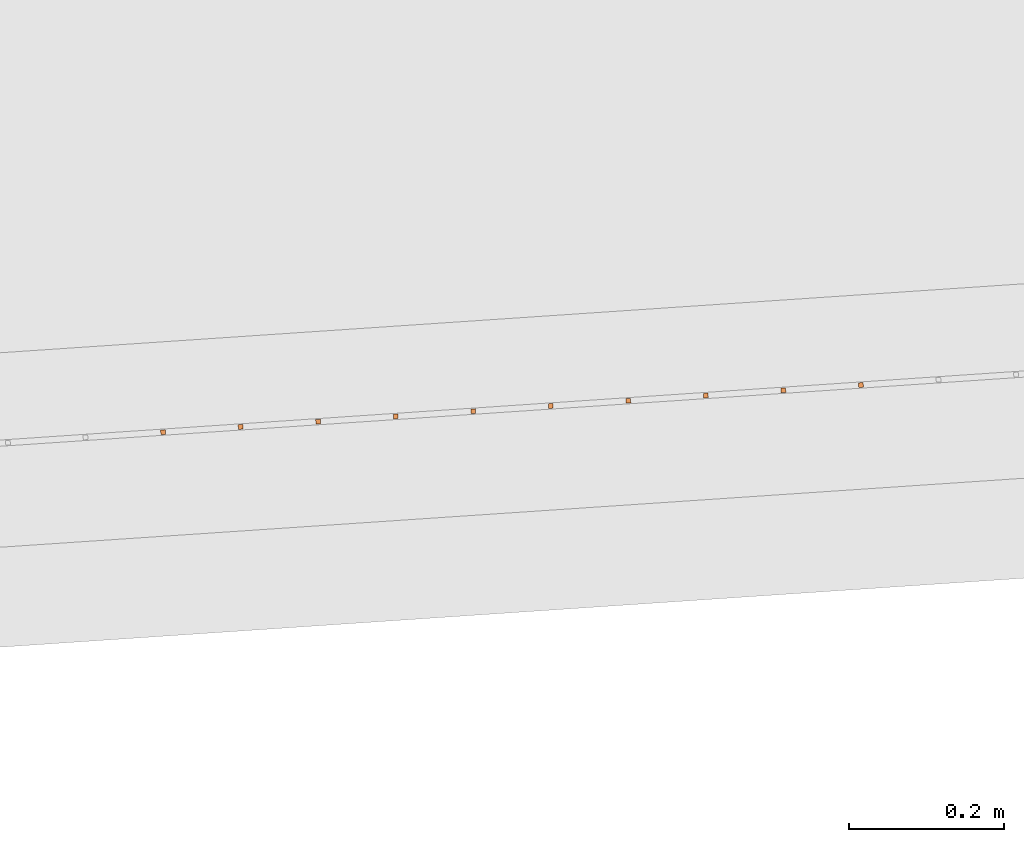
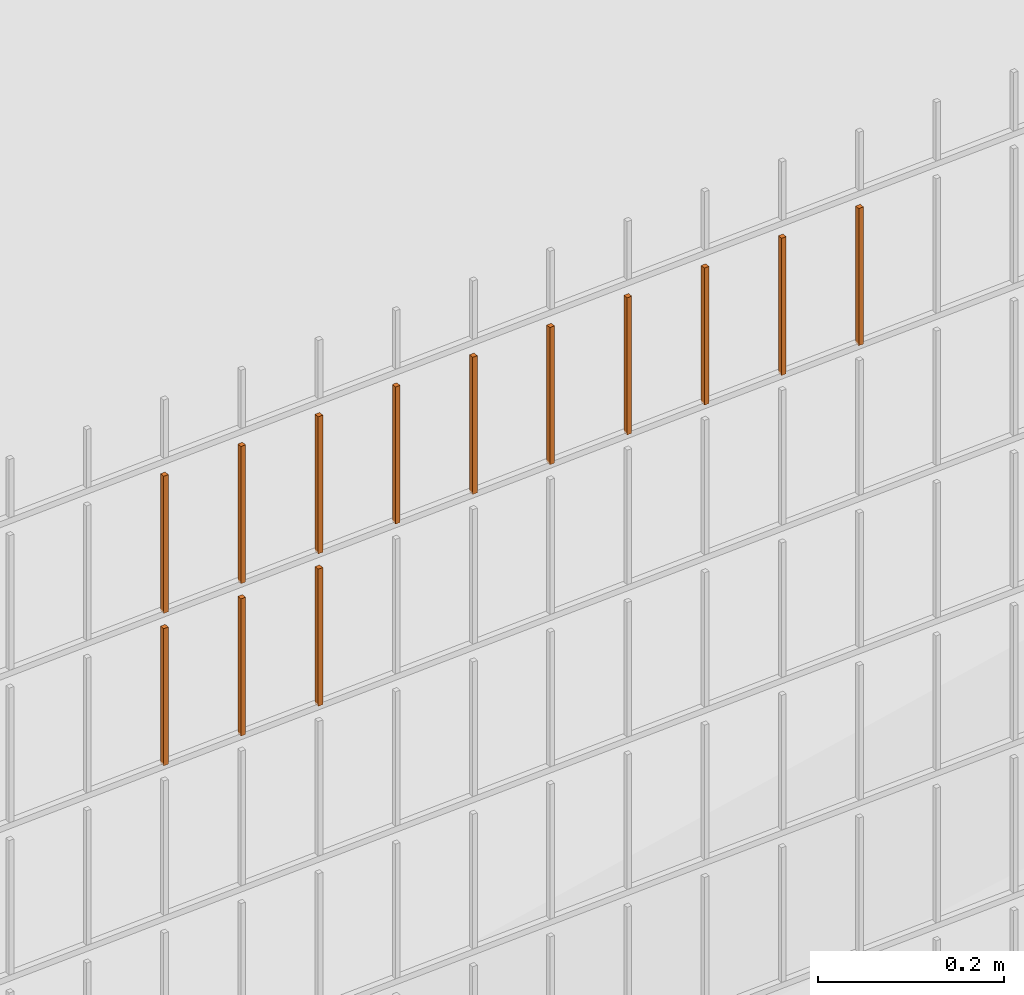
# One storey, part 93 of 1809: 13 proxies, 1 element without a shape of its own.
"""IFC2X3 building model written with IfcOpenShell, lengths in millimetres."""

from ifc_helpers import new_model, entity, si_unit, converted_unit, derived_unit, money_unit, direction, frame, origin_with_axes, place, context, subcontext, project, spatial, faceted_brep, source, transform, mapped, material, type_object, element, aggregate, save


model = new_model("IFC2X3")

# Units and contexts
model_context = context("Model", 3, precision=0.01, world=origin_with_axes(), true_north=direction((0.0, 1.0)))
body_context = subcontext(model_context, "Body", "Model", "MODEL_VIEW")
ifc_project = project(units=[si_unit("LENGTHUNIT", "METRE", prefix="MILLI"), si_unit("AREAUNIT", "SQUARE_METRE"), si_unit("VOLUMEUNIT", "CUBIC_METRE"), converted_unit("PLANEANGLEUNIT", "DEGREE", entity("IfcPlaneAngleMeasure", 0.0174532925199), si_unit("PLANEANGLEUNIT", "RADIAN"), dimensions=[0, 0, 0, 0, 0, 0, 0]), si_unit("SOLIDANGLEUNIT", "STERADIAN"), money_unit("EUR"), converted_unit("TIMEUNIT", "Year", entity("IfcTimeMeasure", 31556926.0), si_unit("TIMEUNIT", "SECOND"), dimensions=[0, 0, 1, 0, 0, 0, 0]), si_unit("MASSUNIT", "GRAM", prefix="KILO"), si_unit("THERMODYNAMICTEMPERATUREUNIT", "DEGREE_CELSIUS"), si_unit("LUMINOUSINTENSITYUNIT", "LUMEN"), si_unit("ENERGYUNIT", "JOULE", prefix="MEGA"), derived_unit("THERMALCONDUCTANCEUNIT", [(si_unit("POWERUNIT", "WATT"), 1), (si_unit("LENGTHUNIT", "METRE"), -1), (si_unit("THERMODYNAMICTEMPERATUREUNIT", "KELVIN"), -1)]), derived_unit("SPECIFICHEATCAPACITYUNIT", [(si_unit("ENERGYUNIT", "JOULE"), 1), (si_unit("MASSUNIT", "GRAM", prefix="KILO"), -1), (si_unit("THERMODYNAMICTEMPERATUREUNIT", "KELVIN"), -1)]), derived_unit("MASSDENSITYUNIT", [(si_unit("MASSUNIT", "GRAM", prefix="KILO"), 1), (si_unit("VOLUMEUNIT", "CUBIC_METRE"), -1)])], contexts=[model_context])

# Site, building, storey
site_placement = place(None, origin_with_axes())
site = spatial("IfcSite", under=ifc_project, at=site_placement, Name="Politse- ja Piirivalveameti ning Päästeameti ühishoone", CompositionType="ELEMENT")
building_placement = place(site_placement, origin_with_axes())
building = spatial("IfcBuilding", under=site, at=building_placement, Name="Politse- ja Piirivalveameti ning Päästeameti ühishoone", CompositionType="ELEMENT")
storey_placement = place(building_placement, origin_with_axes())
storey = spatial("IfcBuildingStorey", under=building, at=storey_placement, Name="Esimene korrus", CompositionType="ELEMENT", Elevation=0.0)

# Proxies
building_element_proxy_type_1 = type_object("IfcBuildingElementProxyType", Name="Railing Type", PredefinedType="NOTDEFINED")
proxy_1_placement = place(storey_placement, frame((89252.001212, -29183.4766571, 203.661247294), z_axis=(0.0, 0.0, 1.0), x_axis=(1.0, 0.0, 0.0)))
proxy_1 = element("IfcBuildingElementProxy", 1, at=proxy_1_placement, inside=storey, type_object=building_element_proxy_type_1, Name="PIIRDEAED")
ifc_material = material(Name="ET-03_Raud")
building_element_proxy_type_2 = type_object("IfcBuildingElementProxyType", Name="IfcBuildingElementProxy", PredefinedType="NOTDEFINED")
shared_shape_1 = source(origin_with_axes(), body_context, "Body", "Brep", [
    faceted_brep([(3.0, 3.0, -0.000752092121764), (-3.0, 3.0, -0.000752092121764), (-3.0, 3.0, 179.99926046), (3.0, 3.0, 179.99926046), (3.0, -3.0, 0.000752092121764), (-3.0, -3.0, 0.000752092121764), (-3.0, -3.0, 180.000764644), (3.0, -3.0, 180.000764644)], [[[0, 1, 2, 3]], [[0, 4, 5, 1]], [[1, 5, 6, 2]], [[3, 2, 6, 7]], [[4, 0, 3, 7]], [[5, 4, 7, 6]]]),
])
proxy_2_placement = place(proxy_1_placement, frame((-98502.2358292, -23951.2290578, 1802.4838641), z_axis=(0.0, 0.0, 1.0), x_axis=(1.0, 0.0, 0.0)))
proxy_2 = element("IfcBuildingElementProxy", 2, at=proxy_2_placement, type_object=building_element_proxy_type_2, material=ifc_material, Name="BALUSTER - 001", context=body_context, shape_type="MappedRepresentation", body=[
    mapped(shared_shape_1, transform((0.0, 0.0, 0.0), x_axis=(-0.0673926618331, 0.997726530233, 0.0), y_axis=(-0.997726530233, -0.0673926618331, 0.0), z_axis=(0.0, 0.0, 1.0))),
])
proxy_3_placement = place(proxy_1_placement, frame((-99100.8717473, -23991.6646549, 1802.33344568), z_axis=(0.0, 0.0, 1.0), x_axis=(1.0, 0.0, 0.0)))
proxy_3 = element("IfcBuildingElementProxy", 3, at=proxy_3_placement, type_object=building_element_proxy_type_2, material=ifc_material, Name="BALUSTER - 001", context=body_context, shape_type="MappedRepresentation", body=[
    mapped(shared_shape_1, transform((0.0, 0.0, 0.0), x_axis=(-0.0673926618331, 0.997726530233, 0.0), y_axis=(-0.997726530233, -0.0673926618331, 0.0), z_axis=(0.0, 0.0, 1.0))),
])
shared_shape_2 = source(origin_with_axes(), body_context, "Body", "Brep", [
    faceted_brep([(3.0, 3.0, -0.000752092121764), (-3.0, 3.0, -0.000752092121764), (-3.0, 3.0, 179.99926046), (3.0, 3.0, 179.99926046), (3.0, -3.0, 0.000752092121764), (-3.0, -3.0, 0.000752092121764), (-3.0, -3.0, 180.000764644), (3.0, -3.0, 180.000764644)], [[[0, 1, 2, 3]], [[0, 4, 5, 1]], [[1, 5, 6, 2]], [[3, 2, 6, 7]], [[4, 0, 3, 7]], [[5, 4, 7, 6]]]),
])
proxy_4_placement = place(proxy_1_placement, frame((-98202.9178701, -23931.0112593, 1802.55907331), z_axis=(0.0, 0.0, 1.0), x_axis=(1.0, 0.0, 0.0)))
proxy_4 = element("IfcBuildingElementProxy", 4, at=proxy_4_placement, type_object=building_element_proxy_type_2, material=ifc_material, Name="BALUSTER - 001", context=body_context, shape_type="MappedRepresentation", body=[
    mapped(shared_shape_2, transform((0.0, 0.0, 0.0), x_axis=(-0.0673926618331, 0.997726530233, 0.0), y_axis=(-0.997726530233, -0.0673926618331, 0.0), z_axis=(0.0, 0.0, 1.0))),
])
proxy_5_placement = place(proxy_1_placement, frame((-99001.0990943, -23984.9253888, 1802.35851541), z_axis=(0.0, 0.0, 1.0), x_axis=(1.0, 0.0, 0.0)))
proxy_5 = element("IfcBuildingElementProxy", 5, at=proxy_5_placement, type_object=building_element_proxy_type_2, material=ifc_material, Name="BALUSTER - 001", context=body_context, shape_type="MappedRepresentation", body=[
    mapped(shared_shape_2, transform((0.0, 0.0, 0.0), x_axis=(-0.0673926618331, 0.997726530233, 0.0), y_axis=(-0.997726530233, -0.0673926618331, 0.0), z_axis=(0.0, 0.0, 1.0))),
])
shared_shape_3 = source(origin_with_axes(), body_context, "Body", "Brep", [
    faceted_brep([(3.0, 3.0, -0.000752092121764), (-3.0, 3.0, -0.000752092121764), (-3.0, 3.0, 179.99926046), (3.0, 3.0, 179.99926046), (3.0, -3.0, 0.000752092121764), (-3.0, -3.0, 0.000752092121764), (-3.0, -3.0, 180.000764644), (3.0, -3.0, 180.000764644)], [[[0, 1, 2, 3]], [[0, 4, 5, 1]], [[1, 5, 6, 2]], [[3, 2, 6, 7]], [[4, 0, 3, 7]], [[5, 4, 7, 6]]]),
])
proxy_6_placement = place(proxy_1_placement, frame((-98402.4631762, -23944.4897917, 1802.50893384), z_axis=(0.0, 0.0, 1.0), x_axis=(1.0, 0.0, 0.0)))
proxy_6 = element("IfcBuildingElementProxy", 6, at=proxy_6_placement, type_object=building_element_proxy_type_2, material=ifc_material, Name="BALUSTER - 001", context=body_context, shape_type="MappedRepresentation", body=[
    mapped(shared_shape_3, transform((0.0, 0.0, 0.0), x_axis=(-0.0673926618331, 0.997726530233, 0.0), y_axis=(-0.997726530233, -0.0673926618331, 0.0), z_axis=(0.0, 0.0, 1.0))),
])
shared_shape_4 = source(origin_with_axes(), body_context, "Body", "Brep", [
    faceted_brep([(3.0, 3.0, -0.000752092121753), (-3.0, 3.0, -0.000752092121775), (-3.0, 3.0, 179.99926046), (3.0, 3.0, 179.99926046), (3.0, -3.0, 0.000752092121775), (-3.0, -3.0, 0.000752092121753), (-3.0, -3.0, 180.000764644), (3.0, -3.0, 180.000764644)], [[[0, 1, 2, 3]], [[0, 4, 5, 1]], [[1, 5, 6, 2]], [[3, 2, 6, 7]], [[4, 0, 3, 7]], [[5, 4, 7, 6]]]),
])
proxy_7_placement = place(proxy_1_placement, frame((-98801.5537883, -23971.4468564, 1802.40865489), z_axis=(0.0, 0.0, 1.0), x_axis=(1.0, 0.0, 0.0)))
proxy_7 = element("IfcBuildingElementProxy", 7, at=proxy_7_placement, type_object=building_element_proxy_type_2, material=ifc_material, Name="BALUSTER - 001", context=body_context, shape_type="MappedRepresentation", body=[
    mapped(shared_shape_4, transform((0.0, 0.0, 0.0), x_axis=(-0.0673926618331, 0.997726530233, 0.0), y_axis=(-0.997726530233, -0.0673926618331, 0.0), z_axis=(0.0, 0.0, 1.0))),
])
shared_shape_5 = source(origin_with_axes(), body_context, "Body", "Brep", [
    faceted_brep([(3.0, 3.0, -0.000752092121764), (-3.0, 3.0, -0.000752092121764), (-3.0, 3.0, 179.99926046), (3.0, 3.0, 179.99926046), (3.0, -3.0, 0.000752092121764), (-3.0, -3.0, 0.000752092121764), (-3.0, -3.0, 180.000764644), (3.0, -3.0, 180.000764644)], [[[0, 1, 2, 3]], [[0, 4, 5, 1]], [[1, 5, 6, 2]], [[3, 2, 6, 7]], [[4, 0, 3, 7]], [[5, 4, 7, 6]]]),
])
proxy_8_placement = place(proxy_1_placement, frame((-99100.8717473, -23991.6646549, 1602.33344568), z_axis=(0.0, 0.0, 1.0), x_axis=(1.0, 0.0, 0.0)))
proxy_8 = element("IfcBuildingElementProxy", 8, at=proxy_8_placement, type_object=building_element_proxy_type_2, material=ifc_material, Name="BALUSTER - 001", context=body_context, shape_type="MappedRepresentation", body=[
    mapped(shared_shape_5, transform((0.0, 0.0, 0.0), x_axis=(-0.0673926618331, 0.997726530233, 0.0), y_axis=(-0.997726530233, -0.0673926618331, 0.0), z_axis=(0.0, 0.0, 1.0))),
])
shared_shape_6 = source(origin_with_axes(), body_context, "Body", "Brep", [
    faceted_brep([(3.0, 3.0, -0.000752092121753), (-3.0, 3.0, -0.000752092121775), (-3.0, 3.0, 179.99926046), (3.0, 3.0, 179.99926046), (3.0, -3.0, 0.000752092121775), (-3.0, -3.0, 0.000752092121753), (-3.0, -3.0, 180.000764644), (3.0, -3.0, 180.000764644)], [[[0, 1, 2, 3]], [[0, 4, 5, 1]], [[1, 5, 6, 2]], [[3, 2, 6, 7]], [[4, 0, 3, 7]], [[5, 4, 7, 6]]]),
])
proxy_9_placement = place(proxy_1_placement, frame((-98701.7811352, -23964.7075902, 1802.43372463), z_axis=(0.0, 0.0, 1.0), x_axis=(1.0, 0.0, 0.0)))
proxy_9 = element("IfcBuildingElementProxy", 9, at=proxy_9_placement, type_object=building_element_proxy_type_2, material=ifc_material, Name="BALUSTER - 001", context=body_context, shape_type="MappedRepresentation", body=[
    mapped(shared_shape_6, transform((0.0, 0.0, 0.0), x_axis=(-0.0673926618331, 0.997726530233, 0.0), y_axis=(-0.997726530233, -0.0673926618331, 0.0), z_axis=(0.0, 0.0, 1.0))),
])
shared_shape_7 = source(origin_with_axes(), body_context, "Body", "Brep", [
    faceted_brep([(3.0, 3.0, -0.000752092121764), (-3.0, 3.0, -0.000752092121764), (-3.0, 3.0, 179.99926046), (3.0, 3.0, 179.99926046), (3.0, -3.0, 0.000752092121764), (-3.0, -3.0, 0.000752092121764), (-3.0, -3.0, 180.000764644), (3.0, -3.0, 180.000764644)], [[[0, 1, 2, 3]], [[0, 4, 5, 1]], [[1, 5, 6, 2]], [[3, 2, 6, 7]], [[4, 0, 3, 7]], [[5, 4, 7, 6]]]),
])
proxy_10_placement = place(proxy_1_placement, frame((-98901.3264413, -23978.1861226, 1802.38358515), z_axis=(0.0, 0.0, 1.0), x_axis=(1.0, 0.0, 0.0)))
proxy_10 = element("IfcBuildingElementProxy", 10, at=proxy_10_placement, type_object=building_element_proxy_type_2, material=ifc_material, Name="BALUSTER - 001", context=body_context, shape_type="MappedRepresentation", body=[
    mapped(shared_shape_7, transform((0.0, 0.0, 0.0), x_axis=(-0.0673926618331, 0.997726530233, 0.0), y_axis=(-0.997726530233, -0.0673926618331, 0.0), z_axis=(0.0, 0.0, 1.0))),
])
shared_shape_8 = source(origin_with_axes(), body_context, "Body", "Brep", [
    faceted_brep([(3.0, 3.0, -0.000752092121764), (-3.0, 3.0, -0.000752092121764), (-3.0, 3.0, 179.99926046), (3.0, 3.0, 179.99926046), (3.0, -3.0, 0.000752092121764), (-3.0, -3.0, 0.000752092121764), (-3.0, -3.0, 180.000764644), (3.0, -3.0, 180.000764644)], [[[0, 1, 2, 3]], [[0, 4, 5, 1]], [[1, 5, 6, 2]], [[3, 2, 6, 7]], [[4, 0, 3, 7]], [[5, 4, 7, 6]]]),
])
proxy_11_placement = place(proxy_1_placement, frame((-98901.3264413, -23978.1861226, 1602.38358515), z_axis=(0.0, 0.0, 1.0), x_axis=(1.0, 0.0, 0.0)))
proxy_11 = element("IfcBuildingElementProxy", 11, at=proxy_11_placement, type_object=building_element_proxy_type_2, material=ifc_material, Name="BALUSTER - 001", context=body_context, shape_type="MappedRepresentation", body=[
    mapped(shared_shape_8, transform((0.0, 0.0, 0.0), x_axis=(-0.0673926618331, 0.997726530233, 0.0), y_axis=(-0.997726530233, -0.0673926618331, 0.0), z_axis=(0.0, 0.0, 1.0))),
])
shared_shape_9 = source(origin_with_axes(), body_context, "Body", "Brep", [
    faceted_brep([(3.0, 3.0, -0.000752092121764), (-3.0, 3.0, -0.000752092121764), (-3.0, 3.0, 179.99926046), (3.0, 3.0, 179.99926046), (3.0, -3.0, 0.000752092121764), (-3.0, -3.0, 0.000752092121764), (-3.0, -3.0, 180.000764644), (3.0, -3.0, 180.000764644)], [[[0, 1, 2, 3]], [[0, 4, 5, 1]], [[1, 5, 6, 2]], [[3, 2, 6, 7]], [[4, 0, 3, 7]], [[5, 4, 7, 6]]]),
])
proxy_12_placement = place(proxy_1_placement, frame((-99001.0990943, -23984.9253888, 1602.35851541), z_axis=(0.0, 0.0, 1.0), x_axis=(1.0, 0.0, 0.0)))
proxy_12 = element("IfcBuildingElementProxy", 12, at=proxy_12_placement, type_object=building_element_proxy_type_2, material=ifc_material, Name="BALUSTER - 001", context=body_context, shape_type="MappedRepresentation", body=[
    mapped(shared_shape_9, transform((0.0, 0.0, 0.0), x_axis=(-0.0673926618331, 0.997726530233, 0.0), y_axis=(-0.997726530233, -0.0673926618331, 0.0), z_axis=(0.0, 0.0, 1.0))),
])
shared_shape_10 = source(origin_with_axes(), body_context, "Body", "Brep", [
    faceted_brep([(3.0, 3.0, -0.000752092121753), (-3.0, 3.0, -0.000752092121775), (-3.0, 3.0, 179.99926046), (3.0, 3.0, 179.99926046), (3.0, -3.0, 0.000752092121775), (-3.0, -3.0, 0.000752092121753), (-3.0, -3.0, 180.000764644), (3.0, -3.0, 180.000764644)], [[[0, 1, 2, 3]], [[0, 4, 5, 1]], [[1, 5, 6, 2]], [[3, 2, 6, 7]], [[4, 0, 3, 7]], [[5, 4, 7, 6]]]),
])
proxy_13_placement = place(proxy_1_placement, frame((-98602.0084822, -23957.968324, 1802.45879436), z_axis=(0.0, 0.0, 1.0), x_axis=(1.0, 0.0, 0.0)))
proxy_13 = element("IfcBuildingElementProxy", 13, at=proxy_13_placement, type_object=building_element_proxy_type_2, material=ifc_material, Name="BALUSTER - 001", context=body_context, shape_type="MappedRepresentation", body=[
    mapped(shared_shape_10, transform((0.0, 0.0, 0.0), x_axis=(-0.0673926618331, 0.997726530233, 0.0), y_axis=(-0.997726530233, -0.0673926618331, 0.0), z_axis=(0.0, 0.0, 1.0))),
])
shared_shape_11 = source(origin_with_axes(), body_context, "Body", "Brep", [
    faceted_brep([(3.0, 3.0, -0.000752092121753), (-3.0, 3.0, -0.000752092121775), (-3.0, 3.0, 179.99926046), (3.0, 3.0, 179.99926046), (3.0, -3.0, 0.000752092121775), (-3.0, -3.0, 0.000752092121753), (-3.0, -3.0, 180.000764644), (3.0, -3.0, 180.000764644)], [[[0, 1, 2, 3]], [[0, 4, 5, 1]], [[1, 5, 6, 2]], [[3, 2, 6, 7]], [[4, 0, 3, 7]], [[5, 4, 7, 6]]]),
])
proxy_14_placement = place(proxy_1_placement, frame((-98302.6905231, -23937.7505255, 1802.53400358), z_axis=(0.0, 0.0, 1.0), x_axis=(1.0, 0.0, 0.0)))
proxy_14 = element("IfcBuildingElementProxy", 14, at=proxy_14_placement, type_object=building_element_proxy_type_2, material=ifc_material, Name="BALUSTER - 001", context=body_context, shape_type="MappedRepresentation", body=[
    mapped(shared_shape_11, transform((0.0, 0.0, 0.0), x_axis=(-0.0673926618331, 0.997726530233, 0.0), y_axis=(-0.997726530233, -0.0673926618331, 0.0), z_axis=(0.0, 0.0, 1.0))),
])
aggregate(proxy_1, [proxy_11, proxy_12, proxy_8, proxy_4, proxy_14, proxy_6, proxy_2, proxy_13, proxy_9, proxy_7, proxy_10, proxy_5, proxy_3])

save(model, "model.ifc")
